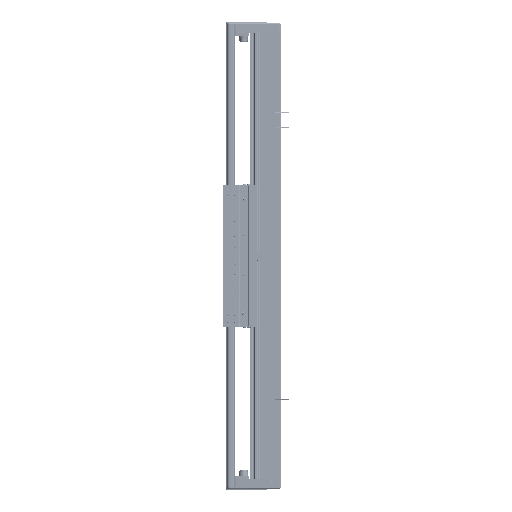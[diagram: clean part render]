
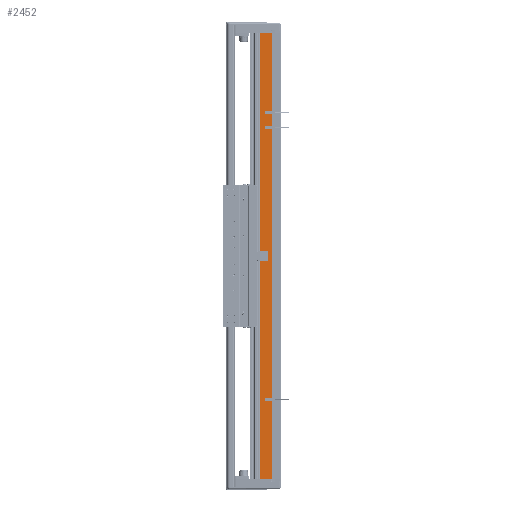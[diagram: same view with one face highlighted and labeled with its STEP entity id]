
A CAD part, left-side view. The second image highlights one B-rep face of the part: STEP entity #2452.
In plain terms, the highlighted planar face has unit normal (-1, 0, 0).
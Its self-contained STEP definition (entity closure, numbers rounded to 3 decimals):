
#2452 = ADVANCED_FACE ( 'NONE', ( #56079 ), #34644, .F. ) ;
#11623 = AXIS2_PLACEMENT_3D ( 'NONE', #87917, #68473, #100354 ) ;
#32231 = VECTOR ( 'NONE', #76331, 1000. ) ;
#33316 = EDGE_CURVE ( 'NONE', #119924, #90561, #105160, .T. ) ;
#34644 = PLANE ( 'NONE',  #11623 ) ;
#42253 = CARTESIAN_POINT ( 'NONE',  ( -97.5, 14.45, 390. ) ) ;
#44543 = LINE ( 'NONE', #98476, #32231 ) ;
#47959 = EDGE_LOOP ( 'NONE', ( #88820, #128963, #109988, #96084 ) ) ;
#56079 = FACE_OUTER_BOUND ( 'NONE', #47959, .T. ) ;
#57503 = CARTESIAN_POINT ( 'NONE',  ( -97.5, 14.45, -390. ) ) ;
#62344 = LINE ( 'NONE', #72029, #131777 ) ;
#63263 = VECTOR ( 'NONE', #118009, 1000. ) ;
#68473 = DIRECTION ( 'NONE',  ( 1., 0., 0. ) ) ;
#69469 = EDGE_CURVE ( 'NONE', #90561, #91037, #62344, .T. ) ;
#69718 = VECTOR ( 'NONE', #113509, 1000. ) ;
#72029 = CARTESIAN_POINT ( 'NONE',  ( -97.5, 36.95, -390. ) ) ;
#74369 = CARTESIAN_POINT ( 'NONE',  ( -97.5, 14.45, 390. ) ) ;
#76331 = DIRECTION ( 'NONE',  ( 0., -1., 0. ) ) ;
#82123 = CARTESIAN_POINT ( 'NONE',  ( -97.5, 36.95, 390. ) ) ;
#87917 = CARTESIAN_POINT ( 'NONE',  ( -97.5, 36.95, 390. ) ) ;
#88820 = ORIENTED_EDGE ( 'NONE', *, *, #69469, .T. ) ;
#90561 = VERTEX_POINT ( 'NONE', #109104 ) ;
#91037 = VERTEX_POINT ( 'NONE', #57503 ) ;
#94674 = EDGE_CURVE ( 'NONE', #97694, #91037, #105546, .T. ) ;
#96084 = ORIENTED_EDGE ( 'NONE', *, *, #33316, .T. ) ;
#97694 = VERTEX_POINT ( 'NONE', #42253 ) ;
#98476 = CARTESIAN_POINT ( 'NONE',  ( -97.5, 36.95, 390. ) ) ;
#100354 = DIRECTION ( 'NONE',  ( 0., 1., 0. ) ) ;
#105160 = LINE ( 'NONE', #125262, #69718 ) ;
#105546 = LINE ( 'NONE', #74369, #63263 ) ;
#106747 = EDGE_CURVE ( 'NONE', #119924, #97694, #44543, .T. ) ;
#109104 = CARTESIAN_POINT ( 'NONE',  ( -97.5, 36.95, -390. ) ) ;
#109988 = ORIENTED_EDGE ( 'NONE', *, *, #106747, .F. ) ;
#113509 = DIRECTION ( 'NONE',  ( 0., 0., -1. ) ) ;
#118009 = DIRECTION ( 'NONE',  ( 0., 0., -1. ) ) ;
#119924 = VERTEX_POINT ( 'NONE', #82123 ) ;
#125262 = CARTESIAN_POINT ( 'NONE',  ( -97.5, 36.95, 390. ) ) ;
#128963 = ORIENTED_EDGE ( 'NONE', *, *, #94674, .F. ) ;
#131777 = VECTOR ( 'NONE', #135105, 1000. ) ;
#135105 = DIRECTION ( 'NONE',  ( 0., -1., 0. ) ) ;
